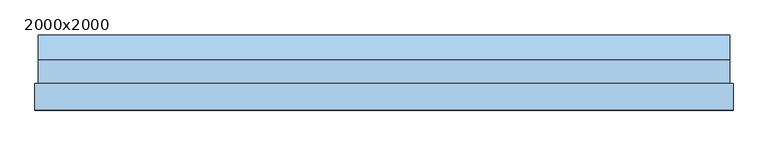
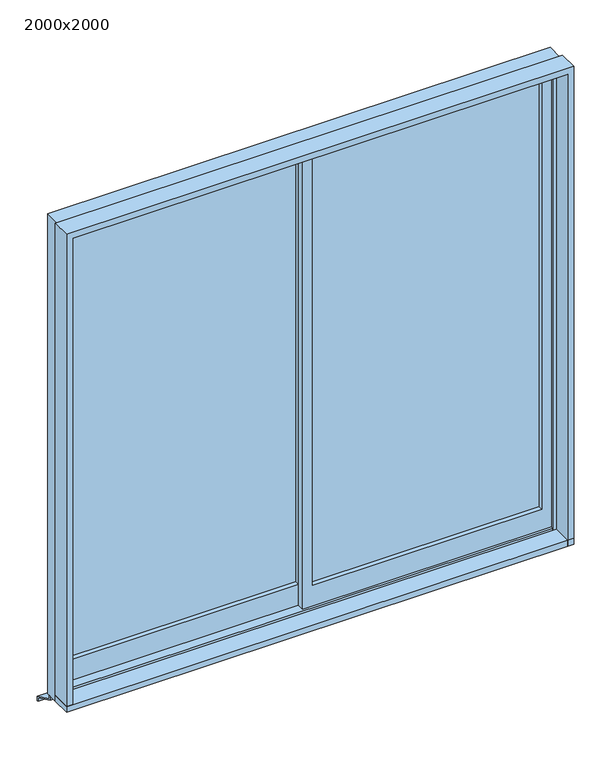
"""IFC4 building model written with IfcOpenShell, lengths in millimetres: window geometry, 鋼製_一般枠_引違い-二枚 : 2000x2000."""

from ifc_helpers import new_model, si_unit, frame, origin, place, context, project, spatial, polyline, outline, extrude, source, transform, mapped, element, save


def window_2000x2000_f1ff98da(model_context):
    return source(origin(), model_context, "Body", "SweptSolid", [
        extrude(outline(polyline([(960.0, -1.0), (20.0, -1.0), (20.0, 4.0), (960.0, 4.0), (960.0, -1.0)])), frame((0.0, 0.0, 990.0), z_axis=(0.0, 0.0, 1.0), x_axis=(1.0, 0.0, 0.0)), (0.0, 0.0, 1.0), 1870.0),
        extrude(outline(polyline([(2900.0, 1000.0), (2900.0, -20.0), (900.0, -20.0), (900.0, 1000.0), (2900.0, 1000.0)]), holes=[polyline([(2860.0, 960.0), (990.0, 960.0), (990.0, 20.0), (2860.0, 20.0), (2860.0, 960.0)])]), frame((0.0, -21.0, 0.0), z_axis=(0.0, 1.0, 0.0), x_axis=(0.0, 0.0, 1.0)), (0.0, 0.0, 1.0), 30.0),
        extrude(outline(polyline([(-20.0, 29.0), (-960.0, 29.0), (-960.0, 34.0), (-20.0, 34.0), (-20.0, 29.0)])), frame((0.0, 0.0, 990.0), z_axis=(0.0, 0.0, 1.0), x_axis=(1.0, 0.0, 0.0)), (0.0, 0.0, 1.0), 1870.0),
        extrude(outline(polyline([(2900.0, 20.0), (2900.0, -1000.0), (900.0, -1000.0), (900.0, 20.0), (2900.0, 20.0)]), holes=[polyline([(2860.0, -20.0), (990.0, -20.0), (990.0, -960.0), (2860.0, -960.0), (2860.0, -20.0)])]), frame((0.0, 9.0, 0.0), z_axis=(0.0, 1.0, 0.0), x_axis=(0.0, 0.0, 1.0)), (0.0, 0.0, 1.0), 30.0),
        extrude(outline(polyline([(1040.0, -110.0), (-1040.0, -110.0), (-1040.0, -30.0), (1040.0, -30.0), (1040.0, -110.0)])), frame((0.0, 0.0, 865.0), z_axis=(0.0, 0.0, 1.0), x_axis=(1.0, 0.0, 0.0)), (0.0, 0.0, 1.0), 25.0),
        extrude(outline(polyline([(30.0, 835.0), (115.0, 795.0), (115.0, 775.0), (110.0014518, 775.0), (110.0014518, 791.8262891), (25.0, 831.8269723), (25.0, 850.0), (30.0, 850.0), (30.0, 835.0)])), frame((-1030.0, 0.0, 0.0), z_axis=(1.0, 0.0, 0.0), x_axis=(0.0, 1.0, 0.0)), (0.0, 0.0, 1.0), 2060.0),
        extrude(outline(polyline([(865.0, -1040.0), (865.0, -1015.0), (2910.0, -1015.0), (2910.0, 1015.0), (865.0, 1015.0), (865.0, 1040.0), (2935.0, 1040.0), (2935.0, -1040.0), (865.0, -1040.0)])), frame((0.0, -110.0, 0.0), z_axis=(0.0, 1.0, 0.0), x_axis=(0.0, 0.0, 1.0)), (0.0, 0.0, 1.0), 80.0),
        extrude(outline(polyline([(850.0, -1030.0), (850.0, -1000.0), (2900.0, -1000.0), (2900.0, 1000.0), (850.0, 1000.0), (850.0, 1030.0), (2930.0, 1030.0), (2930.0, -1030.0), (850.0, -1030.0)])), frame((0.0, -30.0, 0.0), z_axis=(0.0, 1.0, 0.0), x_axis=(0.0, 0.0, 1.0)), (0.0, 0.0, 1.0), 70.0),
        extrude(outline(polyline([(-30.0, 850.0), (-30.0, 900.0), (40.0, 890.6666667), (40.0, 850.0), (-30.0, 850.0)])), frame((-1000.0, 0.0, 0.0), z_axis=(1.0, 0.0, 0.0), x_axis=(0.0, 1.0, 0.0)), (0.0, 0.0, 1.0), 2000.0),
    ])


if __name__ == "__main__":
    model = new_model("IFC4")
    model_context = context("Model", 3, world=origin())
    ifc_project = project(units=[si_unit("LENGTHUNIT", "METRE", prefix="MILLI")], contexts=[model_context])
    site = spatial("IfcSite", under=ifc_project)
    building = spatial("IfcBuilding", under=site)
    placement = place(None, origin())
    window_2000x2000_shape = window_2000x2000_f1ff98da(model_context)
    element("IfcWindow", 1, ObjectType="鋼製_一般枠_引違い-二枚 : 2000x2000", at=placement, inside=building, context=model_context, shape_type="MappedRepresentation", body=[
        mapped(window_2000x2000_shape, transform((0.0, 0.0, 0.0), x_axis=(1.0, 0.0, 0.0), y_axis=(0.0, 1.0, 0.0), z_axis=(0.0, 0.0, 1.0))),
    ])
    save(model, "model.ifc")
